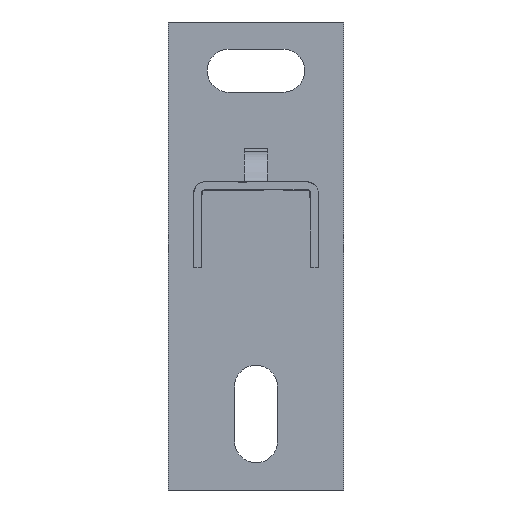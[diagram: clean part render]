
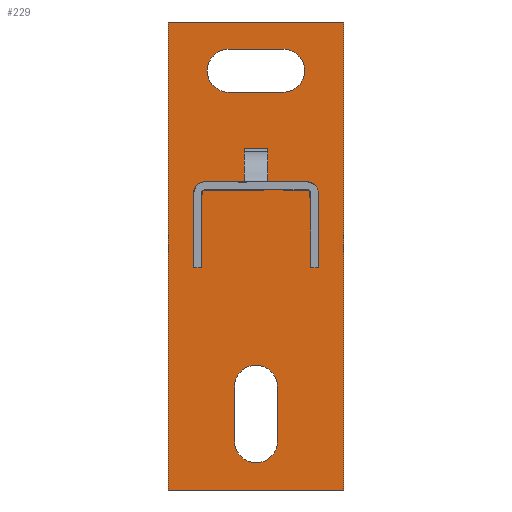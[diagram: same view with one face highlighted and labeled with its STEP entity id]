
A CAD part, front view. The second image highlights one B-rep face of the part: STEP entity #229.
In plain terms, the highlighted planar face has unit normal (0, -1, 0).
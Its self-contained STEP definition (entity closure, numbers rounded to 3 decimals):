
#143=FACE_BOUND($,#452,.T.);
#144=FACE_BOUND($,#453,.T.);
#229=ADVANCED_FACE($,(#335,#143,#144),#1591,.T.);
#335=FACE_OUTER_BOUND($,#451,.T.);
#451=EDGE_LOOP($,(#911,#912,#913,#914));
#452=EDGE_LOOP($,(#915,#916));
#453=EDGE_LOOP($,(#917,#918));
#911=ORIENTED_EDGE($,*,*,#1247,.T.);
#912=ORIENTED_EDGE($,*,*,#1258,.T.);
#913=ORIENTED_EDGE($,*,*,#1257,.T.);
#914=ORIENTED_EDGE($,*,*,#1256,.T.);
#915=ORIENTED_EDGE($,*,*,#1248,.T.);
#916=ORIENTED_EDGE($,*,*,#1266,.T.);
#917=ORIENTED_EDGE($,*,*,#1249,.T.);
#918=ORIENTED_EDGE($,*,*,#1269,.T.);
#1247=EDGE_CURVE($,#1451,#1459,#1871,.T.);
#1248=EDGE_CURVE($,#1452,#1463,#1721,.T.);
#1249=EDGE_CURVE($,#1453,#1465,#1722,.T.);
#1256=EDGE_CURVE($,#1457,#1451,#1876,.T.);
#1257=EDGE_CURVE($,#1458,#1457,#1877,.T.);
#1258=EDGE_CURVE($,#1459,#1458,#1878,.T.);
#1266=EDGE_CURVE($,#1463,#1452,#1725,.T.);
#1269=EDGE_CURVE($,#1465,#1453,#1727,.T.);
#1451=VERTEX_POINT($,#4968);
#1452=VERTEX_POINT($,#4969);
#1453=VERTEX_POINT($,#4970);
#1457=VERTEX_POINT($,#4974);
#1458=VERTEX_POINT($,#4975);
#1459=VERTEX_POINT($,#4976);
#1463=VERTEX_POINT($,#4980);
#1465=VERTEX_POINT($,#4982);
#1591=PLANE($,#1917);
#1721=(
BOUNDED_CURVE()
B_SPLINE_CURVE(2,(#4820,#4821,#4822,#4823,#4824,#4825,#4826),.UNSPECIFIED.,
.F.,.F.)
B_SPLINE_CURVE_WITH_KNOTS((3,2,2,3),(-111.115,-97.115,
-88.476,-79.836),.UNSPECIFIED.)
CURVE()
GEOMETRIC_REPRESENTATION_ITEM()
RATIONAL_B_SPLINE_CURVE((1.,1.,1.,0.707,1.,0.707,
1.))
REPRESENTATION_ITEM($)
);
#1722=(
BOUNDED_CURVE()
B_SPLINE_CURVE(2,(#4827,#4828,#4829,#4830,#4831,#4832,#4833),.UNSPECIFIED.,
.F.,.F.)
B_SPLINE_CURVE_WITH_KNOTS((3,2,2,3),(-111.115,-97.115,
-88.476,-79.836),.UNSPECIFIED.)
CURVE()
GEOMETRIC_REPRESENTATION_ITEM()
RATIONAL_B_SPLINE_CURVE((1.,1.,1.,0.707,1.,0.707,
1.))
REPRESENTATION_ITEM($)
);
#1725=(
BOUNDED_CURVE()
B_SPLINE_CURVE(2,(#4876,#4877,#4878,#4879,#4880,#4881,#4882),.UNSPECIFIED.,
.F.,.F.)
B_SPLINE_CURVE_WITH_KNOTS((3,2,2,3),(-79.836,-65.836,
-57.197,-48.558),.UNSPECIFIED.)
CURVE()
GEOMETRIC_REPRESENTATION_ITEM()
RATIONAL_B_SPLINE_CURVE((1.,1.,1.,0.707,1.,0.707,
1.))
REPRESENTATION_ITEM($)
);
#1727=(
BOUNDED_CURVE()
B_SPLINE_CURVE(2,(#4892,#4893,#4894,#4895,#4896,#4897,#4898),.UNSPECIFIED.,
.F.,.F.)
B_SPLINE_CURVE_WITH_KNOTS((3,2,2,3),(-79.836,-65.836,
-57.197,-48.558),.UNSPECIFIED.)
CURVE()
GEOMETRIC_REPRESENTATION_ITEM()
RATIONAL_B_SPLINE_CURVE((1.,1.,1.,0.707,1.,0.707,
1.))
REPRESENTATION_ITEM($)
);
#1871=B_SPLINE_CURVE_WITH_KNOTS($,1,(#4818,#4819),.UNSPECIFIED.,.F.,.F.,
(2,2),(0.,45.),.UNSPECIFIED.);
#1876=B_SPLINE_CURVE_WITH_KNOTS($,1,(#4856,#4857),.UNSPECIFIED.,.F.,.F.,
(2,2),(210.,330.),.UNSPECIFIED.);
#1877=B_SPLINE_CURVE_WITH_KNOTS($,1,(#4858,#4859),.UNSPECIFIED.,.F.,.F.,
(2,2),(165.,210.),.UNSPECIFIED.);
#1878=B_SPLINE_CURVE_WITH_KNOTS($,1,(#4860,#4861),.UNSPECIFIED.,.F.,.F.,
(2,2),(45.,165.),.UNSPECIFIED.);
#1917=AXIS2_PLACEMENT_3D($,#4906,#1931,$);
#1931=DIRECTION($,(0.,-1.,0.));
#4818=CARTESIAN_POINT($,(-22.5,0.,-120.));
#4819=CARTESIAN_POINT($,(22.5,0.,-120.));
#4820=CARTESIAN_POINT($,(-7.,0.,-7.));
#4821=CARTESIAN_POINT($,(0.,0.,-7.));
#4822=CARTESIAN_POINT($,(7.,0.,-7.));
#4823=CARTESIAN_POINT($,(12.5,0.,-7.));
#4824=CARTESIAN_POINT($,(12.5,0.,-12.5));
#4825=CARTESIAN_POINT($,(12.5,0.,-18.));
#4826=CARTESIAN_POINT($,(7.,0.,-18.));
#4827=CARTESIAN_POINT($,(5.5,0.,-93.5));
#4828=CARTESIAN_POINT($,(5.5,0.,-100.5));
#4829=CARTESIAN_POINT($,(5.5,0.,-107.5));
#4830=CARTESIAN_POINT($,(5.5,0.,-113.));
#4831=CARTESIAN_POINT($,(0.,0.,-113.));
#4832=CARTESIAN_POINT($,(-5.5,0.,-113.));
#4833=CARTESIAN_POINT($,(-5.5,0.,-107.5));
#4856=CARTESIAN_POINT($,(-22.5,0.,0.));
#4857=CARTESIAN_POINT($,(-22.5,0.,-120.));
#4858=CARTESIAN_POINT($,(22.5,0.,0.));
#4859=CARTESIAN_POINT($,(-22.5,0.,0.));
#4860=CARTESIAN_POINT($,(22.5,0.,-120.));
#4861=CARTESIAN_POINT($,(22.5,0.,0.));
#4876=CARTESIAN_POINT($,(7.,0.,-18.));
#4877=CARTESIAN_POINT($,(0.,0.,-18.));
#4878=CARTESIAN_POINT($,(-7.,0.,-18.));
#4879=CARTESIAN_POINT($,(-12.5,0.,-18.));
#4880=CARTESIAN_POINT($,(-12.5,0.,-12.5));
#4881=CARTESIAN_POINT($,(-12.5,0.,-7.));
#4882=CARTESIAN_POINT($,(-7.,0.,-7.));
#4892=CARTESIAN_POINT($,(-5.5,0.,-107.5));
#4893=CARTESIAN_POINT($,(-5.5,0.,-100.5));
#4894=CARTESIAN_POINT($,(-5.5,0.,-93.5));
#4895=CARTESIAN_POINT($,(-5.5,0.,-88.));
#4896=CARTESIAN_POINT($,(0.,0.,-88.));
#4897=CARTESIAN_POINT($,(5.5,0.,-88.));
#4898=CARTESIAN_POINT($,(5.5,0.,-93.5));
#4906=CARTESIAN_POINT($,(-22.5,0.,-120.));
#4968=CARTESIAN_POINT($,(-22.5,0.,-120.));
#4969=CARTESIAN_POINT($,(-7.,0.,-7.));
#4970=CARTESIAN_POINT($,(5.5,0.,-93.5));
#4974=CARTESIAN_POINT($,(-22.5,0.,0.));
#4975=CARTESIAN_POINT($,(22.5,0.,0.));
#4976=CARTESIAN_POINT($,(22.5,0.,-120.));
#4980=CARTESIAN_POINT($,(7.,0.,-18.));
#4982=CARTESIAN_POINT($,(-5.5,0.,-107.5));
